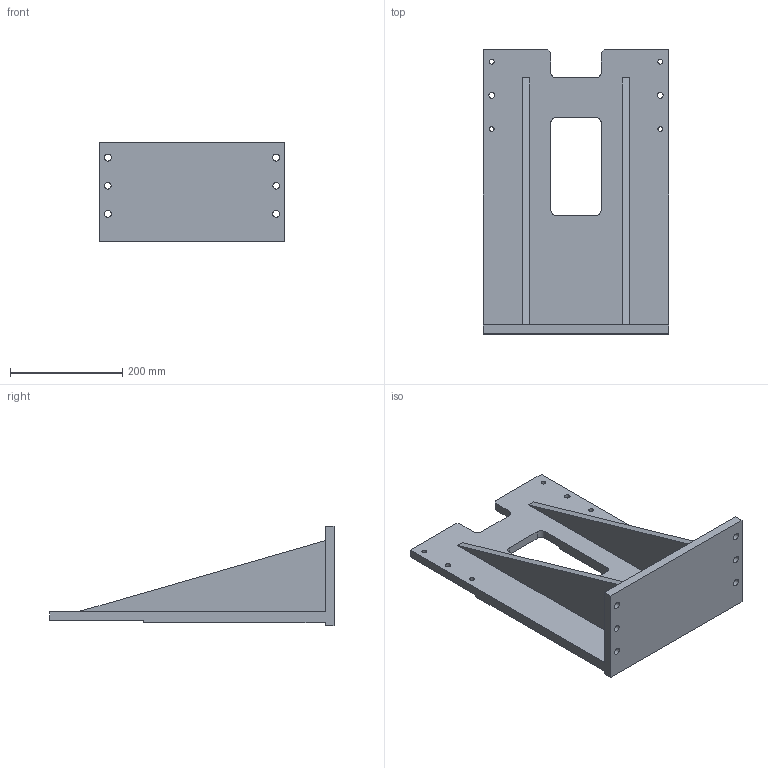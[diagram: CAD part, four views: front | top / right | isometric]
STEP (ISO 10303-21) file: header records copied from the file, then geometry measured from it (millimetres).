
FILE_DESCRIPTION(/* description */ ('DB4-RISER'),/* implementation_level */ '2;1');
FILE_NAME(/* name */ 'C:\Vault Workspace\CAD\Welker\Shot Pin\DBL40\S01896 DB4 Mounting Accessories\S01896E02\S01896E02-425.stp',/* time_stamp */ '2016-05-04T13:51:14-04:00',/* author */ ('klabrecque'),/* organization */ (''),/* preprocessor_version */ 'ST-DEVELOPER v15.2',/* originating_system */ 'Autodesk Inventor 2014',/* authorisation */ '');
FILE_SCHEMA (('AUTOMOTIVE_DESIGN { 1 0 10303 214 3 1 1 }'));
Length unit declared in the file: millimetre
Products named in the file (1): S01896E02-425
Bounding box: 330 x 506 x 177.8 mm (x, y, z)
Volume: 4143101.5 mm3; surface area: 557100.2 mm2
Topology: 1 solids, 1 shells, 47 faces, 150 edges, 104 vertices
Faces by surface type: plane 29, cylinder 18
Full cylindrical faces by diameter (mm): 8.376 x4, 10 x2, 12 x2, 12.5 x4
Entity records: 1628 total; most frequent: CARTESIAN_POINT 266, DIRECTION 258, ORIENTED_EDGE 252, EDGE_CURVE 126, VERTEX_POINT 92, LINE 90, VECTOR 90, EDGE_LOOP 84
